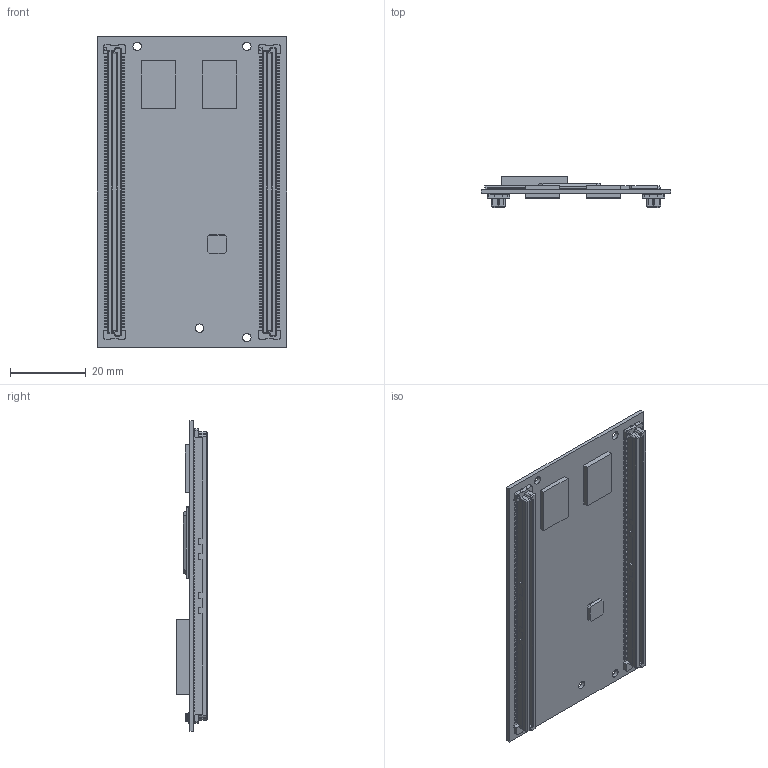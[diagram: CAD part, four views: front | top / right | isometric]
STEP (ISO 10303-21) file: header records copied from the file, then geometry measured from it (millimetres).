
FILE_DESCRIPTION((''),'2;1');
FILE_NAME('55001604_PCBA_WI-IMX53_ASM','2013-01-28T',('mlarsen'),(''),'PRO/ENGINEER BY PARAMETRIC TECHNOLOGY CORPORATION, 2011310','PRO/ENGINEER BY PARAMETRIC TECHNOLOGY CORPORATION, 2011310','');
FILE_SCHEMA(('CONFIG_CONTROL_DESIGN'));
Length unit declared in the file: inch
Products named in the file (11): 30012242_PCB_CC_WI_IMX53; 19050043_SMCONN_RECEPT_2X90; 18000258_CONN_U_FL_SMT_VERT; TM02777_NAND_FLASH_TSOP48; 16051243_SMIC_802_11_ABGN; 16051311_SMIC_10_100_ETH_CTRL; 16051462_SMIC_IMX53; 16051246_SMIC_ETH_PHY_QFN32; 16051655_SMIC_DDR2_BGA84; 16051464_SMIC_DA9053_BGA; 55001604_PCBA_WI-IMX53_ASM
Assembly tree (15 placements, depth 2):
  55001604_PCBA_WI-IMX53_ASM
    30012242_PCB_CC_WI_IMX53
    19050043_SMCONN_RECEPT_2X90  x2
    18000258_CONN_U_FL_SMT_VERT  x2
    TM02777_NAND_FLASH_TSOP48
    16051243_SMIC_802_11_ABGN
    16051311_SMIC_10_100_ETH_CTRL
    16051462_SMIC_IMX53
    16051246_SMIC_ETH_PHY_QFN32
    16051655_SMIC_DDR2_BGA84  x4
    16051464_SMIC_DA9053_BGA
Bounding box: 50.01 x 8.34 x 81.99 mm (x, y, z)
Volume: 8369.4 mm3; surface area: 15949 mm2
Topology: 15 solids, 15 shells, 2771 faces, 8087 edges, 5358 vertices
Faces by surface type: plane 2620, cylinder 93, cone 36, torus 10, sphere 8, bspline 4
Entity records: 46834 total; most frequent: CARTESIAN_POINT 8503, ORIENTED_EDGE 8338, DIRECTION 7230, EDGE_CURVE 4169, VECTOR 4016, LINE 4016, VERTEX_POINT 2762, AXIS2_PLACEMENT_3D 1607
